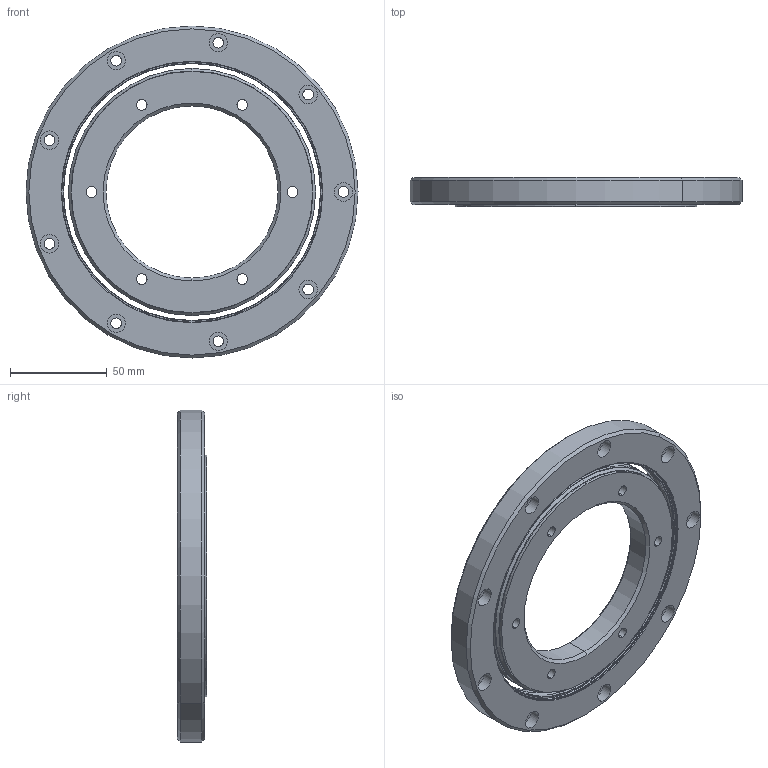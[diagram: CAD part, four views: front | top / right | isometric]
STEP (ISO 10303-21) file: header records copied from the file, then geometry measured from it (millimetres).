
FILE_DESCRIPTION (( 'STEP AP214' ), '1' );
FILE_NAME ('TTS2-089-173-15 Bearing Assembly.STEP', '2018-03-14T15:11:39', ( 'Admin' ), ( '' ), 'SwSTEP 2.0', 'SolidWorks 2018', '' );
FILE_SCHEMA (( 'AUTOMOTIVE_DESIGN' ));
Length unit declared in the file: inch
Products named in the file (3): TTS2 Outer Ring_TTS2-089-173-15; TTS2 Inner Ring_TTS2-089-173-15; TTS2-089-173-15 Bearing Assembly
Assembly tree (2 placements, depth 2):
  TTS2-089-173-15 Bearing Assembly
    TTS2 Inner Ring_TTS2-089-173-15
    TTS2 Outer Ring_TTS2-089-173-15
Bounding box: 171.45 x 15 x 171.45 mm (x, y, z)
Volume: 203814.3 mm3; surface area: 57149.5 mm2
Topology: 2 solids, 2 shells, 155 faces, 340 edges, 206 vertices
Faces by surface type: cylinder 84, cone 28, torus 22, plane 21
Entity records: 4498 total; most frequent: DIRECTION 888, CARTESIAN_POINT 706, ORIENTED_EDGE 680, AXIS2_PLACEMENT_3D 388, EDGE_CURVE 340, CIRCLE 228, EDGE_LOOP 206, VERTEX_POINT 206
